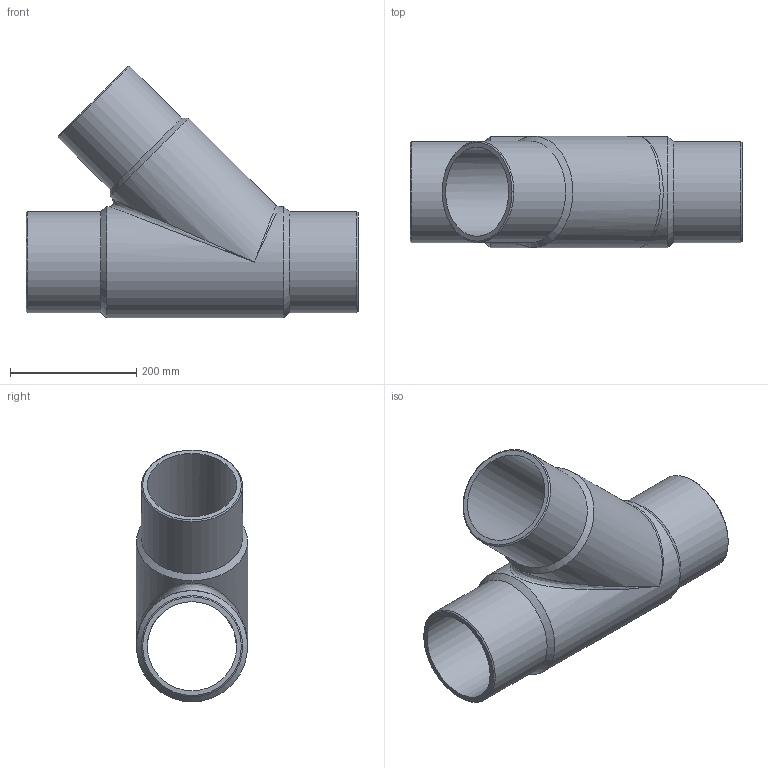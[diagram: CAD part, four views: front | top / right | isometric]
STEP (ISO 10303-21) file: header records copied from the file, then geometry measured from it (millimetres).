
FILE_DESCRIPTION(/* description */ ('Unknown'),/* implementation_level */ '2;1');
FILE_NAME(/* name */ 'T4P160B',/* time_stamp */ '2022-02-23T11:03:55+01:00',/* author */ ('Unknown'),/* organization */ ('Unknown'),/* preprocessor_version */ 'ST-DEVELOPER v18.1',/* originating_system */ 'Solid Edge',/* authorisation */ 'Unknown');
FILE_SCHEMA (('AUTOMOTIVE_DESIGN {1 0 10303 214 3 1 1}'));
Length unit declared in the file: millimetre
Products named in the file (1): T4P160B
Bounding box: 525 x 176 x 398.03 mm (x, y, z)
Volume: 4960408 mm3; surface area: 734850.1 mm2
Topology: 1 solids, 1 shells, 18 faces, 47 edges, 26 vertices
Faces by surface type: cylinder 7, cone 6, plane 3, bspline 2
Full cylindrical faces by diameter (mm): 141 x2, 160 x3, 176 x2
Entity records: 522 total; most frequent: CARTESIAN_POINT 165, DIRECTION 76, ORIENTED_EDGE 42, AXIS2_PLACEMENT_3D 38, EDGE_LOOP 36, FACE_BOUND 36, EDGE_CURVE 21, VERTEX_POINT 19
